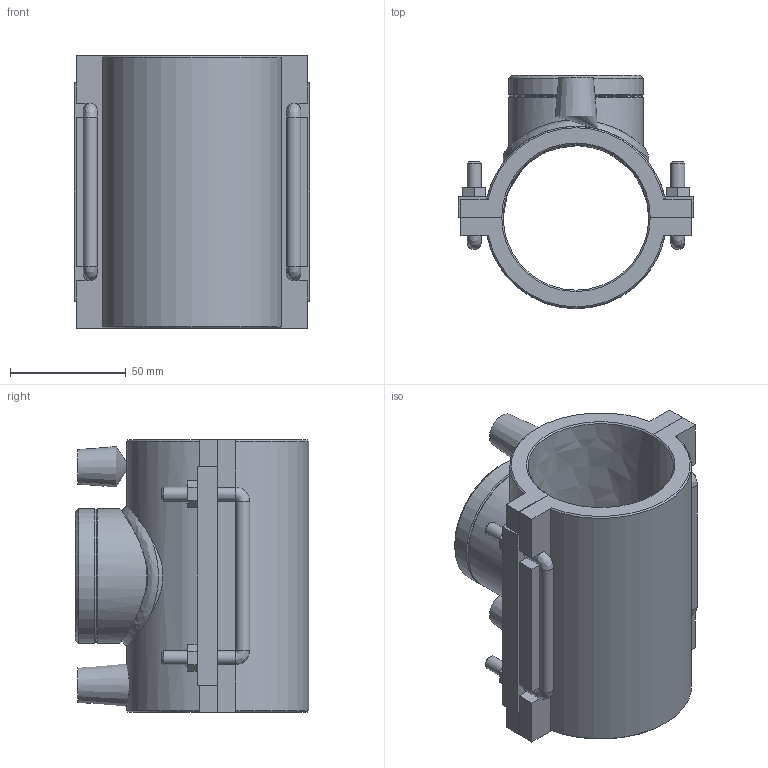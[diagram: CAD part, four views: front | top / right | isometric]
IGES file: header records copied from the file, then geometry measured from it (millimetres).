
Global section: file name: 4958T4063015.ipt; native system: Autodesk Inventor 2015; preprocessor: unknown; author: KIM; date: 20171106.094351; units: millimetre
Bounding box: 102 x 100.88 x 118 mm (x, y, z)
Volume: 276101.9 mm3; surface area: 86426.7 mm2
Topology: 1 solids, 2 shells, 142 faces, 361 edges, 226 vertices
Faces by surface type: plane 82, cylinder 22, revolution 16, cone 13, bspline 9
Full cylindrical faces by diameter (mm): 4 x2, 6 x10, 57.298 x1, 58.298 x2
